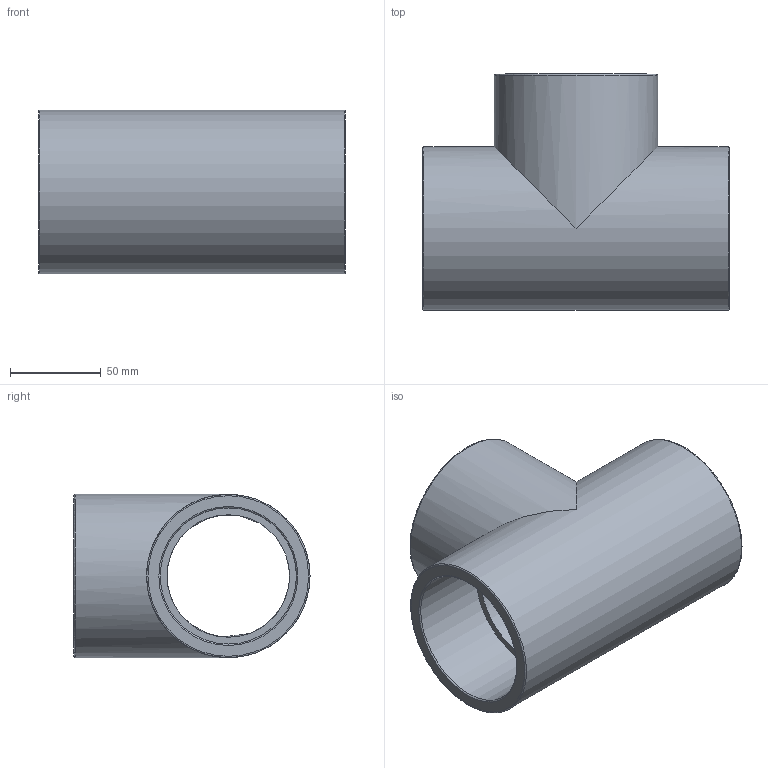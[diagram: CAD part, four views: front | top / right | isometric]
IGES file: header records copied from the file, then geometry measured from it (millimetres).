
Global section: file name: 050400075.ipt; native system: Autodesk Inventor 2015; preprocessor: unknown; author: KIM; date: 20171207.164438; units: millimetre
Bounding box: 169 x 130 x 90 mm (x, y, z)
Volume: 455474.6 mm3; surface area: 111326.3 mm2
Topology: 1 solids, 1 shells, 19 faces, 60 edges, 46 vertices
Faces by surface type: revolution 11, plane 6, cylinder 2
Full cylindrical faces by diameter (mm): 90 x2
